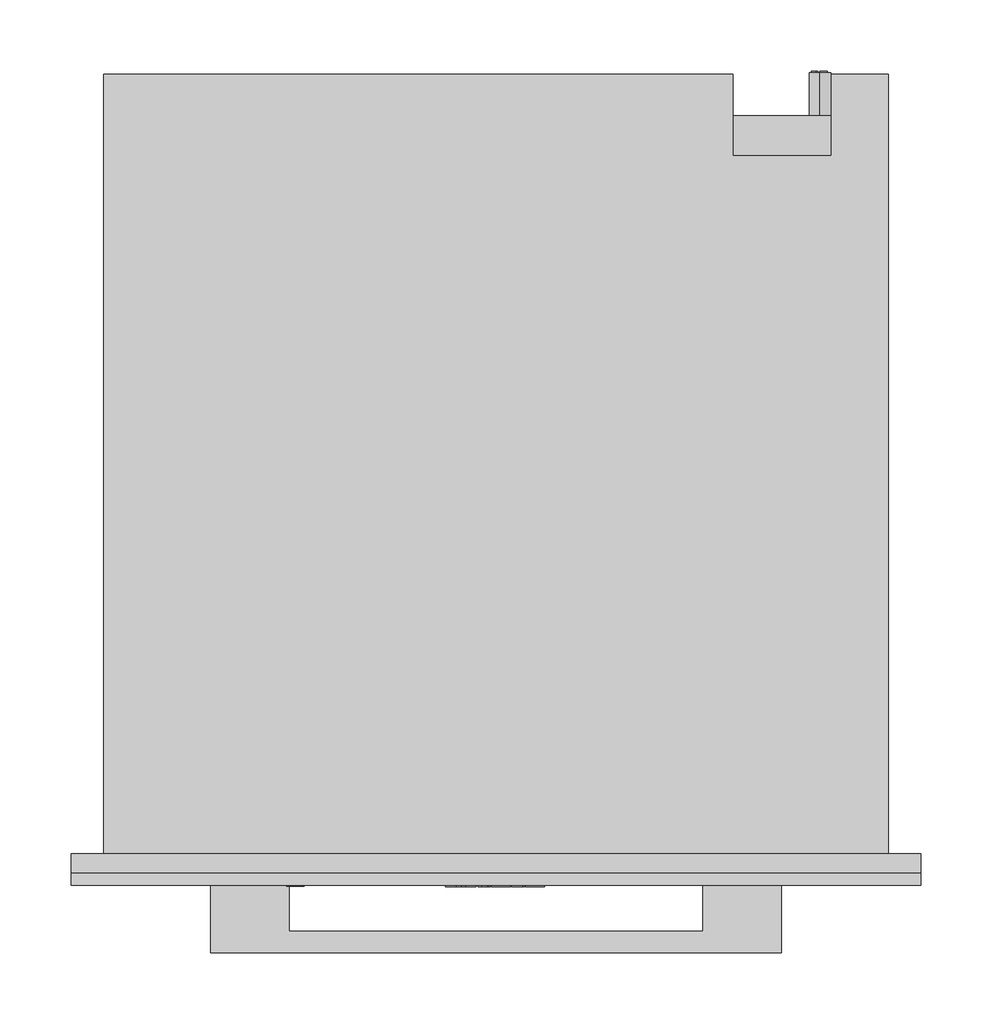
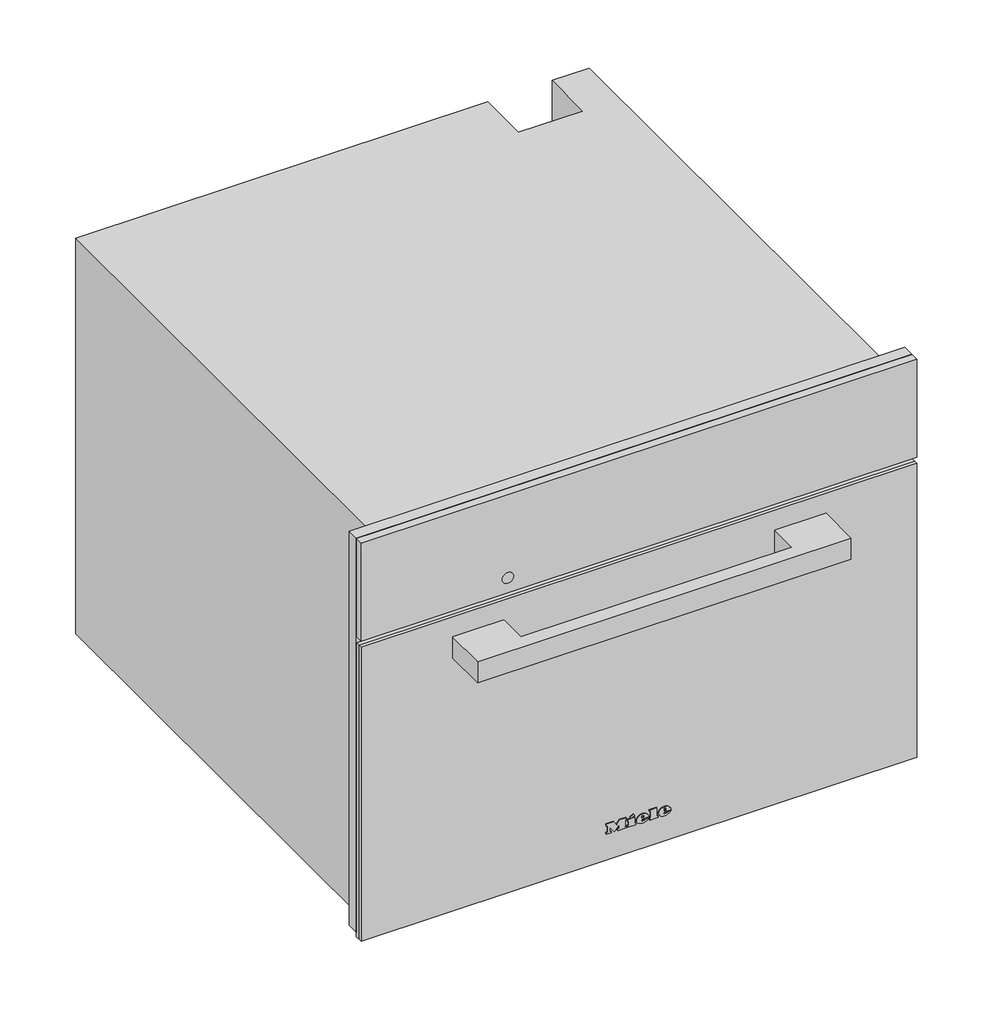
# Not in any storey: 1 proxy.
"""IFC4 building model written with IfcOpenShell, lengths in millimetres."""

from ifc_helpers import new_model, si_unit, origin, place, context, project, spatial, transform, mapped, element, save
from components import specialty_equipment_197ef401

model = new_model("IFC4")

# Units and contexts
model_context = context("Model", 3, world=origin())
ifc_project = project(units=[si_unit("LENGTHUNIT", "METRE", prefix="MILLI")], contexts=[model_context])

# Site, building
site = spatial("IfcSite", under=ifc_project)
building = spatial("IfcBuilding", under=site)

# Proxy
placement = place(None, origin())
specialty_equipment_shape = specialty_equipment_197ef401(model_context)
element("IfcBuildingElementProxy", 1, Name="12118660_TR_DGC7840HCPro_OBSW : 23784028_TR_12118660_DGC7840HCPro_OBSW", ObjectType="12118660_TR_DGC7840HCPro_OBSW : 23784028_TR_12118660_DGC7840HCPro_OBSW", at=placement, inside=building, context=model_context, shape_type="MappedRepresentation", body=[
    mapped(specialty_equipment_shape, transform((0.0, 0.0, 0.0), x_axis=(1.0, 0.0, 0.0), y_axis=(0.0, 1.0, 0.0), z_axis=(0.0, 0.0, 1.0))),
])

save(model, "model.ifc")
